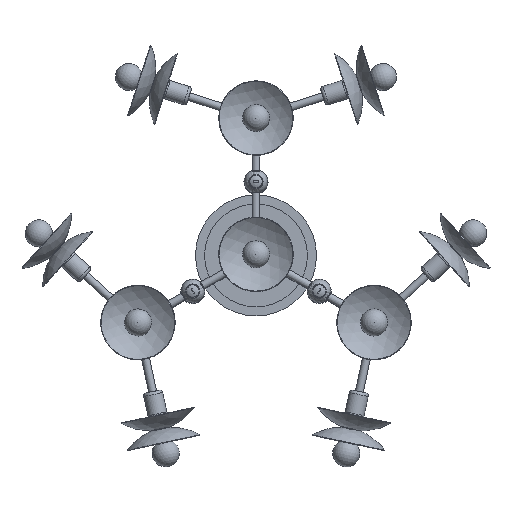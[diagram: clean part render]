
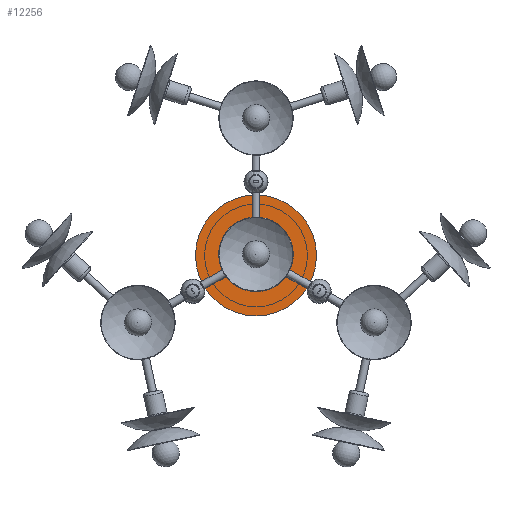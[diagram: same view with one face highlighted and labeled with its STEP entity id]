
A CAD part, top view. The second image highlights one B-rep face of the part: STEP entity #12256.
In plain terms, the highlighted planar face has unit normal (0, 0, 1).
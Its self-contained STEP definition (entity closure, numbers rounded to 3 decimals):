
#580=PLANE('',#14212);
#1843=FACE_OUTER_BOUND('',#2915,.T.);
#2915=EDGE_LOOP('',(#9924));
#4741=CIRCLE('',#14213,100.);
#5711=VERTEX_POINT('',#23254);
#7131=EDGE_CURVE('',#5711,#5711,#4741,.T.);
#9924=ORIENTED_EDGE('',*,*,#7131,.T.);
#12256=ADVANCED_FACE('',(#1843),#580,.T.);
#14212=AXIS2_PLACEMENT_3D('',#23253,#18171,#18172);
#14213=AXIS2_PLACEMENT_3D('',#23255,#18173,#18174);
#18171=DIRECTION('center_axis',(0.,0.,
1.));
#18172=DIRECTION('ref_axis',(-1.,0.,0.));
#18173=DIRECTION('center_axis',(0.,0.,
1.));
#18174=DIRECTION('ref_axis',(0.,-1.,0.));
#23253=CARTESIAN_POINT('Origin',(0.,0.,
4.48));
#23254=CARTESIAN_POINT('',(0.,100.,4.48));
#23255=CARTESIAN_POINT('Origin',(0.,0.,
4.48));
